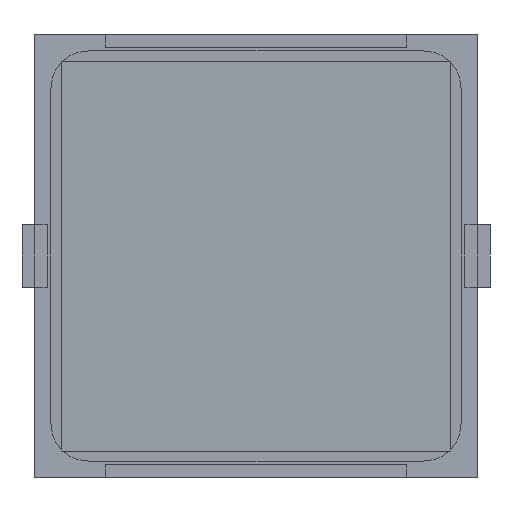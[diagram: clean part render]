
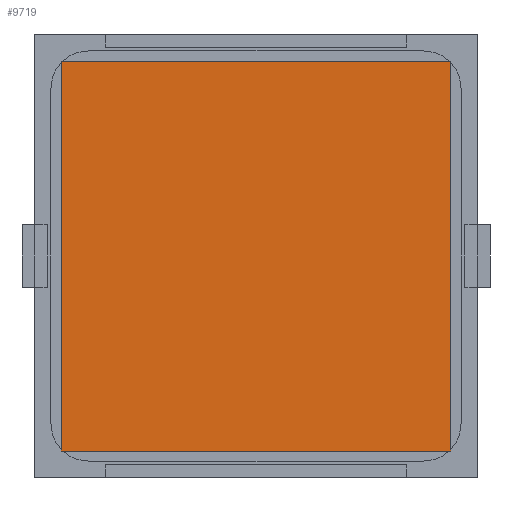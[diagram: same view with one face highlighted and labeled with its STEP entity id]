
A CAD part, front view. The second image highlights one B-rep face of the part: STEP entity #9719.
In plain terms, the highlighted planar face has unit normal (0, -1, 0).
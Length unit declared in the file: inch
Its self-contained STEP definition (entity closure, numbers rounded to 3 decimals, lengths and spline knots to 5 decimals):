
#349 = ORIENTED_EDGE ( 'NONE', *, *, #4681, .F. ) ;
#388 = ORIENTED_EDGE ( 'NONE', *, *, #9767, .F. ) ;
#395 = VECTOR ( 'NONE', #7416, 39.37008 ) ;
#729 = AXIS2_PLACEMENT_3D ( 'NONE', #8085, #3918, #5305 ) ;
#883 = LINE ( 'NONE', #12792, #11523 ) ;
#999 = LINE ( 'NONE', #11657, #10334 ) ;
#1865 = DIRECTION ( 'NONE',  ( -1., 0., 0. ) ) ;
#3351 = VERTEX_POINT ( 'NONE', #4847 ) ;
#3918 = DIRECTION ( 'NONE',  ( 0., 1., 0. ) ) ;
#4681 = EDGE_CURVE ( 'NONE', #3351, #7972, #5245, .T. ) ;
#4786 = ORIENTED_EDGE ( 'NONE', *, *, #5544, .F. ) ;
#4831 = FACE_OUTER_BOUND ( 'NONE', #12005, .T. ) ;
#4847 = CARTESIAN_POINT ( 'NONE',  ( 0.61024, -0.005, -0.61024 ) ) ;
#5245 = LINE ( 'NONE', #11600, #10345 ) ;
#5305 = DIRECTION ( 'NONE',  ( 0., 0., 1. ) ) ;
#5342 = LINE ( 'NONE', #9715, #395 ) ;
#5544 = EDGE_CURVE ( 'NONE', #5645, #7115, #883, .T. ) ;
#5645 = VERTEX_POINT ( 'NONE', #10568 ) ;
#6405 = ORIENTED_EDGE ( 'NONE', *, *, #13014, .F. ) ;
#7115 = VERTEX_POINT ( 'NONE', #12214 ) ;
#7416 = DIRECTION ( 'NONE',  ( 0., 0., 1. ) ) ;
#7972 = VERTEX_POINT ( 'NONE', #9877 ) ;
#8085 = CARTESIAN_POINT ( 'NONE',  ( -0.61024, -0.005, 0.61024 ) ) ;
#9332 = DIRECTION ( 'NONE',  ( 0., 0., -1. ) ) ;
#9715 = CARTESIAN_POINT ( 'NONE',  ( -0.61024, -0.005, -0.61024 ) ) ;
#9719 = ADVANCED_FACE ( 'NONE', ( #4831 ), #13488, .F. ) ;
#9767 = EDGE_CURVE ( 'NONE', #7115, #3351, #999, .T. ) ;
#9877 = CARTESIAN_POINT ( 'NONE',  ( -0.61024, -0.005, -0.61024 ) ) ;
#10334 = VECTOR ( 'NONE', #9332, 39.37008 ) ;
#10345 = VECTOR ( 'NONE', #1865, 39.37008 ) ;
#10530 = DIRECTION ( 'NONE',  ( 1., 0., 0. ) ) ;
#10568 = CARTESIAN_POINT ( 'NONE',  ( -0.61024, -0.005, 0.61024 ) ) ;
#11523 = VECTOR ( 'NONE', #10530, 39.37008 ) ;
#11600 = CARTESIAN_POINT ( 'NONE',  ( -0.61024, -0.005, -0.61024 ) ) ;
#11657 = CARTESIAN_POINT ( 'NONE',  ( 0.61024, -0.005, -0.61024 ) ) ;
#12005 = EDGE_LOOP ( 'NONE', ( #6405, #349, #388, #4786 ) ) ;
#12214 = CARTESIAN_POINT ( 'NONE',  ( 0.61024, -0.005, 0.61024 ) ) ;
#12792 = CARTESIAN_POINT ( 'NONE',  ( -0.61024, -0.005, 0.61024 ) ) ;
#13014 = EDGE_CURVE ( 'NONE', #7972, #5645, #5342, .T. ) ;
#13488 = PLANE ( 'NONE',  #729 ) ;
